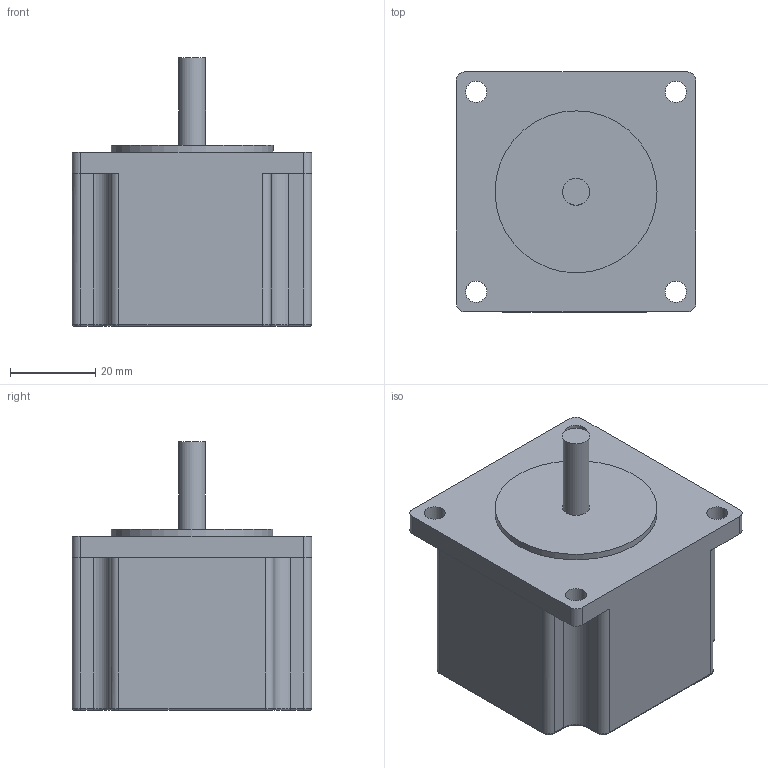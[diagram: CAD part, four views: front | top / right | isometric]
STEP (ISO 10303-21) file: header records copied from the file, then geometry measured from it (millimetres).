
FILE_DESCRIPTION(/* description */ ('Alibre Inc.'),/* implementation_level */ '2;1');
FILE_NAME(/* name */ 'export0',/* time_stamp */ '2013-07-26T09:38:41-06:00',/* author */ (''),/* organization */ (''),/* preprocessor_version */ 'ST-DEVELOPER v14',/* originating_system */ 'Alibre',/* authorisation */ '');
FILE_SCHEMA (('ALIBRE_SCHEMA','CONFIG_CONTROL_DESIGN'));
Length unit declared in the file: centimetre
Products named in the file (1): ID_1
Bounding box: 56.4 x 56.42 x 63.2 mm (x, y, z)
Volume: 120858.3 mm3; surface area: 15808.4 mm2
Topology: 1 solids, 1 shells, 68 faces, 170 edges, 106 vertices
Faces by surface type: cylinder 34, plane 22, torus 12
Full cylindrical faces by diameter (mm): 5 x4, 6.35 x1, 38.1 x1
Entity records: 4027 total; most frequent: CARTESIAN_POINT 601, DIRECTION 415, ORIENTED_EDGE 320, CONSTRAINTPAIRUV 268, REFERENCEDEPENDENTUV 200, EDGE_CURVE 160, AXIS2_PLACEMENT_3D 156, PERSISTANTTOPOLOGYATTRIBUTE 148
